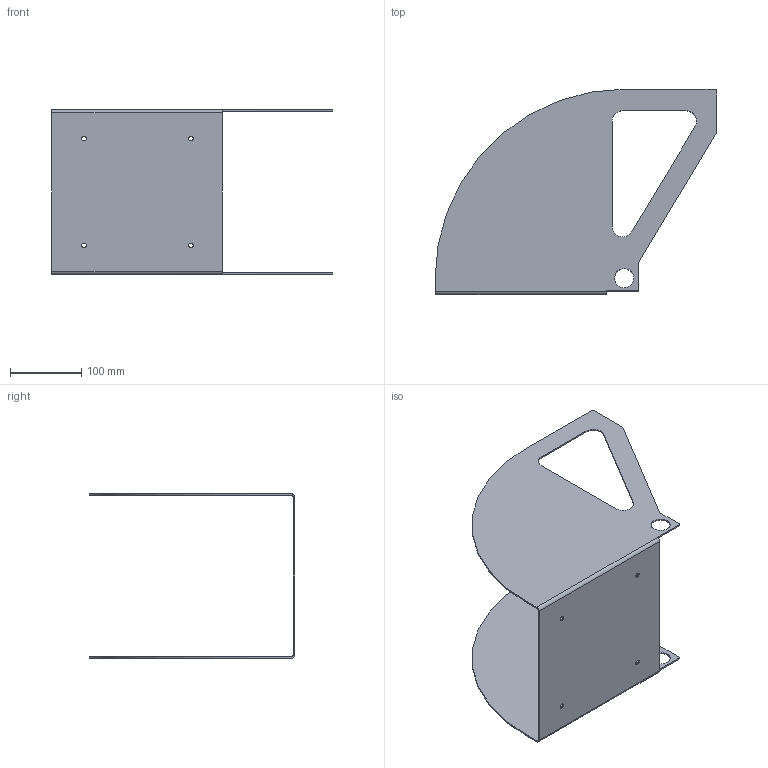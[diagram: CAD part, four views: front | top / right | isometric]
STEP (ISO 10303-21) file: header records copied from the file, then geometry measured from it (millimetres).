
FILE_DESCRIPTION (( 'STEP AP203' ), '1' );
FILE_NAME ('flan601.STEP', '2014-03-12T15:36:26', ( '' ), ( '' ), 'SwSTEP 2.0', 'SolidWorks 2014', '' );
FILE_SCHEMA (( 'CONFIG_CONTROL_DESIGN' ));
Length unit declared in the file: millimetre
Products named in the file (1): flan601
Bounding box: 395 x 288 x 231 mm (x, y, z)
Volume: 384907.6 mm3; surface area: 392043.8 mm2
Topology: 1 solids, 1 shells, 64 faces, 170 edges, 108 vertices
Faces by surface type: cylinder 32, plane 30, bspline 2
Entity records: 2155 total; most frequent: CARTESIAN_POINT 425, DIRECTION 348, ORIENTED_EDGE 340, EDGE_CURVE 170, AXIS2_PLACEMENT_3D 123, VERTEX_POINT 108, VECTOR 102, LINE 102
